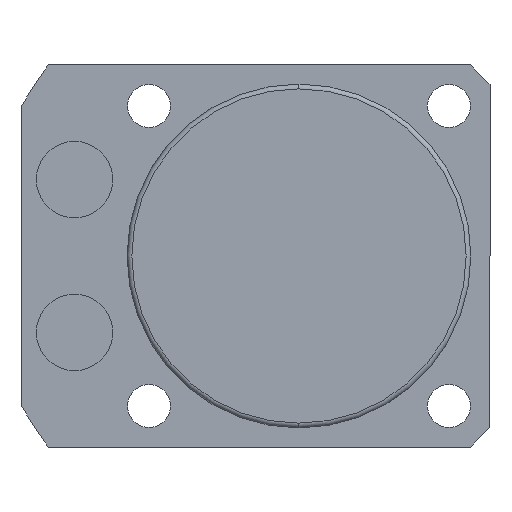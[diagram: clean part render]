
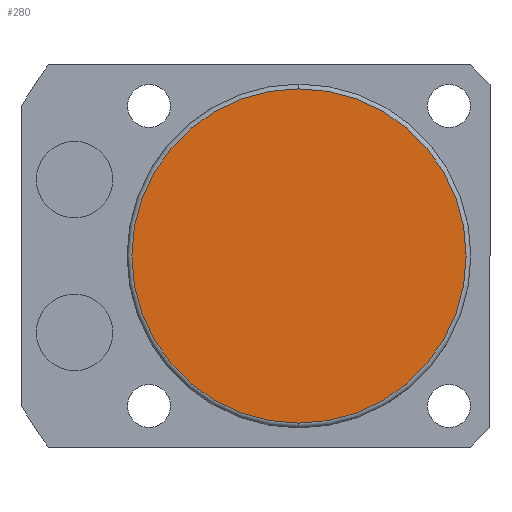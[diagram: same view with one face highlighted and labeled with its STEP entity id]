
A CAD part, front view. The second image highlights one B-rep face of the part: STEP entity #280.
In plain terms, the highlighted planar face has unit normal (0, -1, 0).
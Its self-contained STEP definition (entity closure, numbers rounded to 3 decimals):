
#17 = DIRECTION ( 'NONE',  ( 0., -1., 0. ) ) ;
#40 = CARTESIAN_POINT ( 'NONE',  ( 0., -40.5, 0. ) ) ;
#76 = ORIENTED_EDGE ( 'NONE', *, *, #631, .T. ) ;
#155 = CARTESIAN_POINT ( 'NONE',  ( 0., -40.5, 0. ) ) ;
#165 = DIRECTION ( 'NONE',  ( 0., 0., -1. ) ) ;
#280 = ADVANCED_FACE ( 'NONE', ( #596 ), #722, .T. ) ;
#337 = DIRECTION ( 'NONE',  ( 0., 0., -1. ) ) ;
#497 = ORIENTED_EDGE ( 'NONE', *, *, #808, .T. ) ;
#596 = FACE_OUTER_BOUND ( 'NONE', #1244, .T. ) ;
#631 = EDGE_CURVE ( 'NONE', #2220, #1923, #967, .T. ) ;
#722 = PLANE ( 'NONE',  #1505 ) ;
#808 = EDGE_CURVE ( 'NONE', #1923, #2220, #1630, .T. ) ;
#822 = CARTESIAN_POINT ( 'NONE',  ( 0., -40.5, 17.5 ) ) ;
#967 = CIRCLE ( 'NONE', #1676, 17.5 ) ;
#980 = DIRECTION ( 'NONE',  ( 0., 0., -1. ) ) ;
#1070 = DIRECTION ( 'NONE',  ( 0., -1., 0. ) ) ;
#1120 = DIRECTION ( 'NONE',  ( 0., -1., 0. ) ) ;
#1244 = EDGE_LOOP ( 'NONE', ( #497, #76 ) ) ;
#1426 = CARTESIAN_POINT ( 'NONE',  ( 0., -40.5, -17.5 ) ) ;
#1505 = AXIS2_PLACEMENT_3D ( 'NONE', #155, #1120, #165 ) ;
#1630 = CIRCLE ( 'NONE', #2076, 17.5 ) ;
#1676 = AXIS2_PLACEMENT_3D ( 'NONE', #2034, #1070, #337 ) ;
#1923 = VERTEX_POINT ( 'NONE', #1426 ) ;
#2034 = CARTESIAN_POINT ( 'NONE',  ( 0., -40.5, 0. ) ) ;
#2076 = AXIS2_PLACEMENT_3D ( 'NONE', #40, #17, #980 ) ;
#2220 = VERTEX_POINT ( 'NONE', #822 ) ;
